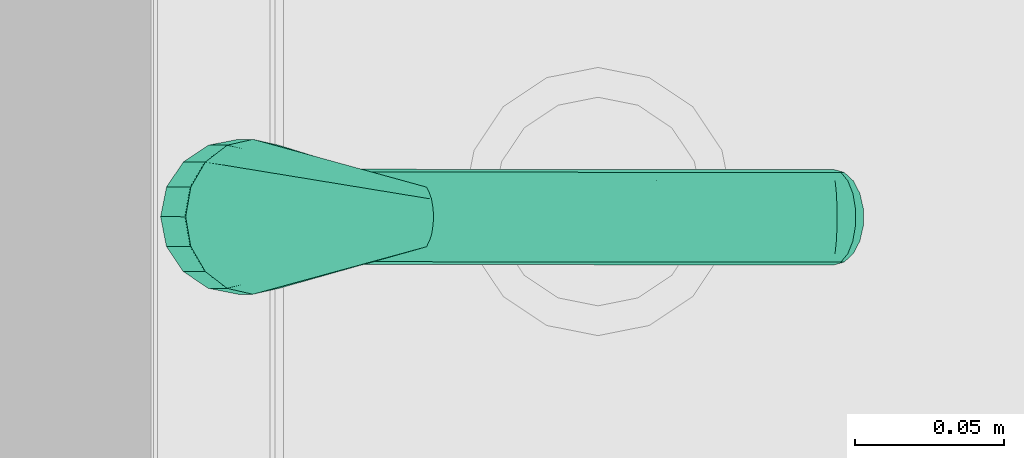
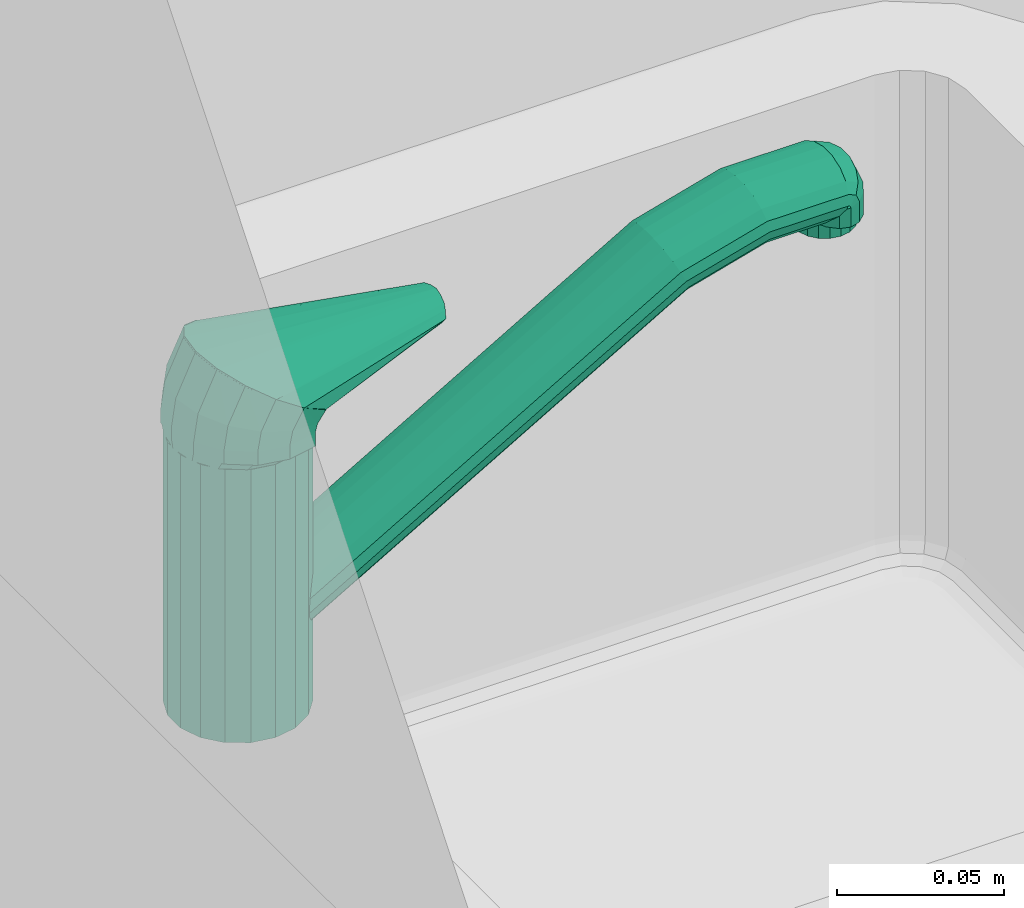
# One storey, part 77 of 127: 1 flow terminal.
"""IFC2X3 building model written with IfcOpenShell, lengths in millimetres."""

from ifc_helpers import new_model, entity, si_unit, converted_unit, derived_unit, money_unit, direction, frame, origin_with_axes, place, context, subcontext, project, spatial, open_shell, faceted_brep, surface_model, source, transform, mapped, type_object, element, save


model = new_model("IFC2X3")

# Units and contexts
model_context = context("Model", 3, precision=1e-05, world=origin_with_axes(), true_north=direction((0.0, 1.0)))
body_context = subcontext(model_context, "Body", "Model", "MODEL_VIEW")
ifc_project = project(units=[si_unit("LENGTHUNIT", "METRE", prefix="MILLI"), si_unit("AREAUNIT", "SQUARE_METRE"), si_unit("VOLUMEUNIT", "CUBIC_METRE"), converted_unit("PLANEANGLEUNIT", "DEGREE", entity("IfcPlaneAngleMeasure", 0.0174532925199), si_unit("PLANEANGLEUNIT", "RADIAN"), dimensions=[0, 0, 0, 0, 0, 0, 0]), si_unit("SOLIDANGLEUNIT", "STERADIAN"), money_unit("EUR"), converted_unit("TIMEUNIT", "Year", entity("IfcTimeMeasure", 31556926.0), si_unit("TIMEUNIT", "SECOND"), dimensions=[0, 0, 1, 0, 0, 0, 0]), si_unit("MASSUNIT", "GRAM", prefix="KILO"), si_unit("THERMODYNAMICTEMPERATUREUNIT", "DEGREE_CELSIUS"), si_unit("LUMINOUSINTENSITYUNIT", "LUMEN"), si_unit("ENERGYUNIT", "JOULE", prefix="MEGA"), derived_unit("THERMALCONDUCTANCEUNIT", [(si_unit("POWERUNIT", "WATT"), 1), (si_unit("LENGTHUNIT", "METRE"), -1), (si_unit("THERMODYNAMICTEMPERATUREUNIT", "KELVIN"), -1)]), derived_unit("SPECIFICHEATCAPACITYUNIT", [(si_unit("ENERGYUNIT", "JOULE"), 1), (si_unit("MASSUNIT", "GRAM", prefix="KILO"), -1), (si_unit("THERMODYNAMICTEMPERATUREUNIT", "KELVIN"), -1)]), derived_unit("MASSDENSITYUNIT", [(si_unit("MASSUNIT", "GRAM", prefix="KILO"), 1), (si_unit("VOLUMEUNIT", "CUBIC_METRE"), -1)])], contexts=[model_context])

# Site, building, storey
site_placement = place(None, origin_with_axes())
site = spatial("IfcSite", under=ifc_project, at=site_placement, Name="Site", CompositionType="ELEMENT")
building_placement = place(site_placement, origin_with_axes())
building = spatial("IfcBuilding", under=site, at=building_placement, Name="Building", CompositionType="ELEMENT")
storey_placement = place(building_placement, origin_with_axes())
storey = spatial("IfcBuildingStorey", under=building, at=storey_placement, Name="1 KORRUS", CompositionType="ELEMENT", Elevation=0.0)

# Flow terminal
sanitary_terminal_type = type_object("IfcSanitaryTerminalType", Name="Tap 22", PredefinedType="NOTDEFINED")
shared_shape = source(origin_with_axes(), body_context, "Body", "SurfaceModel", [
    faceted_brep([(-21.1430839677, -7.69545322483, 1000.0), (-22.5, 0.0, 1000.0), (-21.1430839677, 7.69545322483, 1000.0), (-17.2359999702, 14.4627212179, 1000.0), (-11.25, 19.4855715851, 1000.0), (-3.90708399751, 22.1581744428, 1000.0), (3.90708399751, 22.1581744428, 1000.0), (11.25, 19.4855715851, 1000.0), (17.2359999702, 14.4627212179, 1000.0), (21.1430839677, 7.69545322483, 1000.0), (22.5, 0.0, 1000.0), (21.1430839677, -7.69545322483, 1000.0), (17.2359999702, -14.4627212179, 1000.0), (11.25, -19.4855715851, 1000.0), (3.90708399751, -22.1581744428, 1000.0), (-3.90708399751, -22.1581744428, 1000.0), (-11.25, -19.4855715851, 1000.0), (-17.2359999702, -14.4627212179, 1000.0), (-21.1430839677, -7.69545322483, 1010.0), (-22.5, 0.0, 1010.0), (-21.1430839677, 7.69545322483, 1010.0), (-17.2359999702, 14.4627212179, 1010.0), (-11.25, 19.4855715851, 1010.0), (-3.90708399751, 22.1581744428, 1010.0), (3.90708399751, 22.1581744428, 1010.0), (11.25, 19.4855715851, 1010.0), (17.2359999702, 14.4627212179, 1010.0), (21.1430839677, 7.69545322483, 1010.0), (22.5, 0.0, 1010.0), (21.1430839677, -7.69545322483, 1010.0), (17.2359999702, -14.4627212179, 1010.0), (11.25, -19.4855715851, 1010.0), (3.90708399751, -22.1581744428, 1010.0), (-3.90708399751, -22.1581744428, 1010.0), (-11.25, -19.4855715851, 1010.0), (-17.2359999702, -14.4627212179, 1010.0)], [[[0, 1, 2, 3, 4, 5, 6, 7, 8, 9, 10, 11, 12, 13, 14, 15, 16, 17]], [[0, 18, 19, 1]], [[1, 19, 20, 2]], [[2, 20, 21, 3]], [[3, 21, 22, 4]], [[4, 22, 23, 5]], [[5, 23, 24, 6]], [[6, 24, 25, 7]], [[7, 25, 26, 8]], [[8, 26, 27, 9]], [[9, 27, 28, 10]], [[10, 28, 29, 11]], [[11, 29, 30, 12]], [[12, 30, 31, 13]], [[13, 31, 32, 14]], [[14, 32, 33, 15]], [[15, 33, 34, 16]], [[16, 34, 35, 17]], [[17, 35, 18, 0]], [[18, 35, 34, 33, 32, 31, 30, 29, 28, 27, 26, 25, 24, 23, 22, 21, 20, 19]]]),
    faceted_brep([(-21.1430839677, -7.69545322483, 1010.0), (-22.5, 0.0, 1010.0), (-21.1430839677, 7.69545322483, 1010.0), (-17.2359999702, 14.4627212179, 1010.0), (-11.25, 19.4855715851, 1010.0), (-3.90708399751, 22.1581744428, 1010.0), (3.90708399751, 22.1581744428, 1010.0), (11.25, 19.4855715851, 1010.0), (17.2359999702, 14.4627212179, 1010.0), (21.1430839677, 7.69545322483, 1010.0), (22.5, 0.0, 1010.0), (21.1430839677, -7.69545322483, 1010.0), (17.2359999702, -14.4627212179, 1010.0), (11.25, -19.4855715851, 1010.0), (3.90708399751, -22.1581744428, 1010.0), (-3.90708399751, -22.1581744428, 1010.0), (-11.25, -19.4855715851, 1010.0), (-17.2359999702, -14.4627212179, 1010.0), (-21.1430839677, -7.69545322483, 1055.0), (-22.5, 0.0, 1055.0), (-21.1430839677, 7.69545322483, 1055.0), (-17.2359999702, 14.4627212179, 1055.0), (-11.25, 19.4855715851, 1055.0), (-3.90708399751, 22.1581744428, 1055.0), (3.90708399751, 22.1581744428, 1055.0), (11.25, 19.4855715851, 1055.0), (17.2359999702, 14.4627212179, 1055.0), (21.1430839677, 7.69545322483, 1055.0), (22.5, 0.0, 1055.0), (21.1430839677, -7.69545322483, 1055.0), (17.2359999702, -14.4627212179, 1055.0), (11.25, -19.4855715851, 1055.0), (3.90708399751, -22.1581744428, 1055.0), (-3.90708399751, -22.1581744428, 1055.0), (-11.25, -19.4855715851, 1055.0), (-17.2359999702, -14.4627212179, 1055.0)], [[[0, 1, 2, 3, 4, 5, 6, 7, 8, 9, 10, 11, 12, 13, 14, 15, 16, 17]], [[0, 18, 19, 1]], [[1, 19, 20, 2]], [[2, 20, 21, 3]], [[3, 21, 22, 4]], [[4, 22, 23, 5]], [[5, 23, 24, 6]], [[6, 24, 25, 7]], [[7, 25, 26, 8]], [[8, 26, 27, 9]], [[9, 27, 28, 10]], [[10, 28, 29, 11]], [[11, 29, 30, 12]], [[12, 30, 31, 13]], [[13, 31, 32, 14]], [[14, 32, 33, 15]], [[15, 33, 34, 16]], [[16, 34, 35, 17]], [[17, 35, 18, 0]], [[18, 35, 34, 33, 32, 31, 30, 29, 28, 27, 26, 25, 24, 23, 22, 21, 20, 19]]]),
    faceted_brep([(-21.1430839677, -7.69545322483, 1055.0), (-22.5, 0.0, 1055.0), (-21.1430839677, 7.69545322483, 1055.0), (-17.2359999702, 14.4627212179, 1055.0), (-11.25, 19.4855715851, 1055.0), (-3.90708399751, 22.1581744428, 1055.0), (3.90708399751, 22.1581744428, 1055.0), (11.25, 19.4855715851, 1055.0), (17.2359999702, 14.4627212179, 1055.0), (21.1430839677, 7.69545322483, 1055.0), (22.5, 0.0, 1055.0), (21.1430839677, -7.69545322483, 1055.0), (17.2359999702, -14.4627212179, 1055.0), (11.25, -19.4855715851, 1055.0), (3.90708399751, -22.1581744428, 1055.0), (-3.90708399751, -22.1581744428, 1055.0), (-11.25, -19.4855715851, 1055.0), (-17.2359999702, -14.4627212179, 1055.0), (-21.1430839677, -7.69545322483, 1100.0), (-22.5, 0.0, 1100.0), (-21.1430839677, 7.69545322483, 1100.0), (-17.2359999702, 14.4627212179, 1100.0), (-11.25, 19.4855715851, 1100.0), (-3.90708399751, 22.1581744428, 1100.0), (3.90708399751, 22.1581744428, 1100.0), (11.25, 19.4855715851, 1100.0), (17.2359999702, 14.4627212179, 1100.0), (21.1430839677, 7.69545322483, 1100.0), (22.5, 0.0, 1100.0), (21.1430839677, -7.69545322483, 1100.0), (17.2359999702, -14.4627212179, 1100.0), (11.25, -19.4855715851, 1100.0), (3.90708399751, -22.1581744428, 1100.0), (-3.90708399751, -22.1581744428, 1100.0), (-11.25, -19.4855715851, 1100.0), (-17.2359999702, -14.4627212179, 1100.0)], [[[0, 1, 2, 3, 4, 5, 6, 7, 8, 9, 10, 11, 12, 13, 14, 15, 16, 17]], [[0, 18, 19, 1]], [[1, 19, 20, 2]], [[2, 20, 21, 3]], [[3, 21, 22, 4]], [[4, 22, 23, 5]], [[5, 23, 24, 6]], [[6, 24, 25, 7]], [[7, 25, 26, 8]], [[8, 26, 27, 9]], [[9, 27, 28, 10]], [[10, 28, 29, 11]], [[11, 29, 30, 12]], [[12, 30, 31, 13]], [[13, 31, 32, 14]], [[14, 32, 33, 15]], [[15, 33, 34, 16]], [[16, 34, 35, 17]], [[17, 35, 18, 0]], [[18, 35, 34, 33, 32, 31, 30, 29, 28, 27, 26, 25, 24, 23, 22, 21, 20, 19]]]),
    surface_model("IfcShellBasedSurfaceModel", [(-20.7872894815, -8.61037722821, 1100.0), (-24.0208678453, -12.9497692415, 1104.5), (-26.0, -3.0, 1104.5), (-22.5, 0.0, 1100.0), (-15.9099025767, -15.9099025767, 1100.0), (-24.0208678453, -12.9497692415, 1104.5), (-24.0208678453, 6.94976924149, 1104.5), (-20.7872894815, 8.61037722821, 1100.0), (-8.61037722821, -20.7872894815, 1100.0), (-18.3847763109, 15.3847763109, 1104.5), (-15.9099025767, 15.9099025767, 1100.0), (0.0, -25.1, 1104.5), (-9.94976924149, 21.0208678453, 1104.5), (-8.61037722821, 20.7872894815, 1100.0), (0.0, -22.5, 1100.0), (0.0, 23.0, 1104.5), (0.0, 22.5, 1100.0), (8.61037722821, -20.7872894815, 1100.0), (9.94976924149, 21.0208678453, 1104.5), (8.61037722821, 20.7872894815, 1100.0), (15.9099025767, -15.9099025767, 1100.0), (18.3847763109, 15.3847763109, 1104.5), (15.9099025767, 15.9099025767, 1100.0), (24.0208678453, -12.9497692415, 1104.5), (24.0208678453, 6.94976924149, 1104.5), (20.7872894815, 8.61037722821, 1100.0), (20.7872894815, -8.61037722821, 1100.0), (26.0, -3.0, 1104.5), (22.5, 0.0, 1100.0)], [open_shell([[[0, 1, 2, 3]], [[4, 5, 1, 0]], [[3, 2, 6, 7]], [[8, 5, 4]], [[7, 6, 9, 10]], [[8, 11, 5]], [[10, 9, 12, 13]], [[14, 11, 8]], [[13, 12, 15, 16]], [[17, 11, 14]], [[16, 15, 18, 19]], [[20, 11, 17]], [[19, 18, 21, 22]], [[20, 23, 11]], [[22, 21, 24, 25]], [[26, 23, 20]], [[25, 24, 27, 28]], [[28, 27, 23, 26]]])]),
    surface_model("IfcShellBasedSurfaceModel", [(-24.0208678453, -12.9497692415, 1103.0), (-24.0208678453, -12.9497692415, 1108.0), (-26.0, -3.0, 1108.0), (-24.0208678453, -12.9497692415, 1103.0), (-26.0, -4.0, 1113.0), (-26.0, -3.0, 1103.0), (-24.0208678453, -12.9497692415, 1108.0), (-24.0208678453, 5.75655144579, 1114.95131029), (-24.0208678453, -13.7565514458, 1111.04868971), (-24.0208678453, 6.94976924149, 1108.0), (0.0, -25.1, 1103.0), (-24.0208678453, 0.638818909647, 1124.93646795), (-26.0, -8.0, 1120.0), (-24.0208678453, 6.94976924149, 1103.0), (0.0, -25.1, 1108.0), (-24.0208678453, -13.7565514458, 1111.04868971), (-18.3847763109, 7.96245595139, 1129.1214034), (-18.3847763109, 14.0277563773, 1116.60555128), (-24.0208678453, -16.6388189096, 1115.06353205), (-18.3847763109, 15.3847763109, 1108.0), (24.0208678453, -12.9497692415, 1103.0), (-18.3847763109, 15.3847763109, 1103.0), (24.0208678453, -12.9497692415, 1108.0), (0.0, -25.6708329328, 1108.66583341), (-24.0208678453, -16.6388189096, 1115.06353205), (-9.94976924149, 12.8559537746, 1131.91768787), (-9.94976924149, 19.5543988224, 1117.71087976), (-9.94976924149, 21.0208678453, 1108.0), (26.0, -3.0, 1103.0), (-9.94976924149, 21.0208678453, 1103.0), (26.0, -3.0, 1108.0), (24.0208678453, -13.7565514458, 1111.04868971), (0.0, -27.188173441, 1109.03532946), (0.0, 14.5743216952, 1132.8996124), (0.0, 21.495097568, 1118.09901951), (0.0, 23.0, 1108.0), (24.0208678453, 6.94976924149, 1103.0), (0.0, 23.0, 1103.0), (24.0208678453, 6.94976924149, 1108.0), (26.0, -4.0, 1113.0), (24.0208678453, -16.6388189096, 1115.06353205), (9.94976924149, 12.8559537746, 1131.91768787), (9.94976924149, 19.5543988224, 1117.71087976), (9.94976924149, 21.0208678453, 1108.0), (18.3847763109, 15.3847763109, 1103.0), (9.94976924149, 21.0208678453, 1103.0), (18.3847763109, 15.3847763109, 1108.0), (24.0208678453, 5.75655144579, 1114.95131029), (26.0, -8.0, 1120.0), (18.3847763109, 7.96245595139, 1129.1214034), (18.3847763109, 14.0277563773, 1116.60555128), (24.0208678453, 0.638818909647, 1124.93646795)], [open_shell([[[0, 1, 2]], [[1, 0, 3]], [[4, 2, 1]], [[2, 5, 0]], [[3, 6, 1]], [[2, 4, 7]], [[1, 8, 4]], [[5, 2, 9]], [[6, 3, 10]], [[8, 1, 6]], [[11, 7, 4]], [[7, 9, 2]], [[12, 4, 8]], [[9, 13, 5]], [[10, 14, 6]], [[6, 15, 8]], [[7, 11, 16]], [[4, 12, 11]], [[9, 7, 17]], [[8, 18, 12]], [[13, 9, 19]], [[14, 10, 20]], [[15, 6, 14]], [[18, 8, 15]], [[16, 17, 7]], [[17, 19, 9]], [[19, 21, 13]], [[20, 22, 14]], [[14, 23, 15]], [[15, 24, 18]], [[17, 16, 25]], [[19, 17, 26]], [[21, 19, 27]], [[22, 20, 28]], [[23, 14, 22]], [[24, 15, 23]], [[25, 26, 17]], [[26, 27, 19]], [[27, 29, 21]], [[28, 30, 22]], [[22, 31, 23]], [[23, 32, 24]], [[26, 25, 33]], [[27, 26, 34]], [[29, 27, 35]], [[30, 28, 36]], [[31, 22, 30]], [[32, 23, 31]], [[33, 34, 26]], [[34, 35, 27]], [[35, 37, 29]], [[36, 38, 30]], [[30, 39, 31]], [[31, 40, 32]], [[34, 33, 41]], [[35, 34, 42]], [[37, 35, 43]], [[38, 36, 44]], [[39, 30, 38]], [[40, 31, 39]], [[41, 42, 34]], [[42, 43, 35]], [[43, 45, 37]], [[44, 46, 38]], [[38, 47, 39]], [[39, 48, 40]], [[42, 41, 49]], [[43, 42, 50]], [[45, 43, 46]], [[46, 44, 45]], [[47, 38, 46]], [[48, 39, 47]], [[49, 50, 42]], [[50, 46, 43]], [[46, 50, 47]], [[47, 51, 48]], [[50, 49, 51]], [[51, 47, 50]]])]),
    surface_model("IfcShellBasedSurfaceModel", [(-24.0208678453, -16.7440274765, 1115.25238044), (-10.0, -66.2556184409, 1122.50657537), (-26.0, -8.0, 1120.0), (-9.0, -65.3013009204, 1120.74894114), (-8.0, -67.2099359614, 1124.26420959), (0.0, -27.4218581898, 1109.4547914), (0.0, -63.8698246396, 1118.1124898), (9.0, -65.3013009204, 1120.74894114), (10.0, -66.2556184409, 1122.50657537), (8.0, -67.2099359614, 1124.26420959), (6.0, -67.9256741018, 1125.58243526), (3.0, -68.4028328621, 1126.46125237), (0.0, -68.6414122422, 1126.90066093), (-3.0, -68.4028328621, 1126.46125237), (-6.0, -67.9256741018, 1125.58243526), (-24.0208678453, 0.744027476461, 1124.74761956), (24.0208678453, -16.7440274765, 1115.25238044), (26.0, -8.0, 1120.0), (24.0208678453, 0.744027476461, 1124.74761956), (18.3847763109, 8.15685603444, 1128.77245707), (9.94976924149, 13.1099497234, 1131.46176752), (0.0, 14.8492449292, 1132.40612777), (-9.94976924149, 13.1099497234, 1131.46176752), (-18.3847763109, 8.15685603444, 1128.77245707)], [open_shell([[[0, 1, 2]], [[0, 3, 1]], [[2, 1, 4]], [[5, 3, 0]], [[3, 6, 7, 8, 9, 10, 11, 12, 13, 14, 4, 1]], [[2, 4, 15]], [[5, 6, 3]], [[16, 7, 6]], [[17, 8, 7]], [[18, 9, 8]], [[19, 10, 9]], [[20, 11, 10]], [[21, 12, 11]], [[22, 13, 12]], [[23, 14, 13]], [[15, 4, 14]], [[16, 6, 5]], [[17, 7, 16]], [[18, 8, 17]], [[19, 9, 18]], [[20, 10, 19]], [[21, 11, 20]], [[22, 12, 21]], [[23, 13, 22]], [[15, 14, 23]]])]),
    surface_model("IfcShellBasedSurfaceModel", [(-16.0, -15.0, 1035.8), (-16.0, -146.0, 1112.0), (-15.0350819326, -144.663324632, 1115.17921593), (-15.0350819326, -13.350271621, 1038.79711945), (-15.0350819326, -16.649728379, 1032.80288055), (-15.0350819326, -147.336675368, 1108.82078407), (-16.0, -175.0, 1120.0), (-15.0350819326, -174.536897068, 1123.42020143), (-12.2567110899, -143.487872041, 1117.97497151), (-12.2567110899, -11.8995248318, 1041.43274206), (-12.2567110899, -18.1004751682, 1030.16725794), (-12.2567110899, -148.512127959, 1106.02502849), (-15.0350819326, -175.463102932, 1116.57979857), (-16.0, -202.0, 1120.0), (-15.0350819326, -202.702022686, 1123.42020143), (-12.2567110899, -174.129651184, 1126.4278761), (-8.0, -142.615419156, 1120.05005733), (-8.0, -10.8227411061, 1043.38897285), (-8.0, -19.1772588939, 1028.21102715), (-8.0, -149.384580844, 1103.94994267), (-12.2567110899, -175.870348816, 1113.5721239), (-15.0350819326, -201.297977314, 1116.57979857), (-16.0, -202.7, 1119.7), (-15.0350819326, -205.304747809, 1122.30474781), (-12.2567110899, -203.319371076, 1126.4278761), (-8.0, -173.827382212, 1128.66025404), (-2.77837084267, -142.151196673, 1121.15418744), (-2.77837084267, -10.2497964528, 1044.42986151), (-2.77837084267, -19.7502035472, 1027.17013849), (-2.77837084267, -149.848803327, 1102.84581256), (-8.0, -176.172617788, 1111.33974596), (-12.2567110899, -200.680628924, 1113.5721239), (-15.0350819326, -200.095252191, 1117.09525219), (-16.0, -203.0, 1119.0), (-15.0350819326, -206.420201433, 1119.70202269), (-12.2567110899, -207.595324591, 1124.59532459), (-8.0, -203.777583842, 1128.66025404), (-2.77837084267, -173.666548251, 1129.84807753), (2.77837084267, -142.151196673, 1121.15418744), (2.77837084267, -10.2497964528, 1044.42986151), (2.77837084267, -19.7502035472, 1027.17013849), (2.77837084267, -149.848803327, 1102.84581256), (-2.77837084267, -176.333451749, 1110.15192247), (-8.0, -200.222416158, 1111.33974596), (-12.2567110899, -197.804675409, 1114.80467541), (-15.0350819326, -199.579798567, 1118.29797731), (-16.0, -203.0, 1112.0), (-15.0350819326, -206.420201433, 1112.0), (-12.2567110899, -209.427876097, 1120.31937108), (-8.0, -209.295452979, 1126.29545298), (-2.77837084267, -204.021393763, 1129.84807753), (2.77837084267, -173.666548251, 1129.84807753), (8.0, -142.615419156, 1120.05005733), (8.0, -10.8227411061, 1043.38897285), (8.0, -19.1772588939, 1028.21102715), (8.0, -149.384580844, 1103.94994267), (2.77837084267, -176.333451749, 1110.15192247), (-2.77837084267, -199.978606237, 1110.15192247), (-8.0, -196.104547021, 1113.10454702), (-12.2567110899, -196.572123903, 1117.68062892), (-15.0350819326, -199.579798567, 1112.0), (-12.2567110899, -196.572123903, 1112.0), (-8.0, -194.339745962, 1112.0), (-2.77837084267, -193.15192247, 1112.0), (2.77837084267, -193.15192247, 1112.0), (8.0, -194.339745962, 1112.0), (12.2567110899, -196.572123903, 1112.0), (15.0350819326, -199.579798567, 1112.0), (16.0, -203.0, 1112.0), (15.0350819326, -206.420201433, 1112.0), (12.2567110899, -209.427876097, 1112.0), (8.0, -211.660254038, 1112.0), (2.77837084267, -212.84807753, 1112.0), (-2.77837084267, -212.84807753, 1112.0), (-8.0, -211.660254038, 1112.0), (-12.2567110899, -209.427876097, 1112.0), (-8.0, -211.660254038, 1120.77758384), (-2.77837084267, -210.2000724, 1127.2000724), (2.77837084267, -204.021393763, 1129.84807753), (8.0, -173.827382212, 1128.66025404), (12.2567110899, -143.487872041, 1117.97497151), (12.2567110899, -11.8995248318, 1041.43274206), (12.2567110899, -18.1004751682, 1030.16725794), (12.2567110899, -148.512127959, 1106.02502849), (8.0, -176.172617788, 1111.33974596), (2.77837084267, -199.978606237, 1110.15192247), (-2.77837084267, -195.1999276, 1112.1999276), (-8.0, -194.339745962, 1117.22241616), (-2.77837084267, -193.15192247, 1116.97860624), (2.77837084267, -193.15192247, 1116.97860624), (8.0, -194.339745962, 1117.22241616), (12.2567110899, -196.572123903, 1117.68062892), (15.0350819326, -199.579798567, 1118.29797731), (16.0, -203.0, 1119.0), (15.0350819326, -206.420201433, 1119.70202269), (12.2567110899, -209.427876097, 1120.31937108), (8.0, -211.660254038, 1120.77758384), (2.77837084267, -212.84807753, 1121.02139376), (-2.77837084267, -212.84807753, 1121.02139376), (2.77837084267, -210.2000724, 1127.2000724), (8.0, -203.777583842, 1128.66025404), (12.2567110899, -174.129651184, 1126.4278761), (15.0350819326, -144.663324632, 1115.17921593), (15.0350819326, -13.350271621, 1038.79711945), (15.0350819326, -16.649728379, 1032.80288055), (15.0350819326, -147.336675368, 1108.82078407), (12.2567110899, -175.870348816, 1113.5721239), (8.0, -200.222416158, 1111.33974596), (2.77837084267, -195.1999276, 1112.1999276), (8.0, -196.104547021, 1113.10454702), (12.2567110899, -197.804675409, 1114.80467541), (15.0350819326, -200.095252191, 1117.09525219), (16.0, -202.7, 1119.7), (15.0350819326, -205.304747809, 1122.30474781), (12.2567110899, -207.595324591, 1124.59532459), (8.0, -209.295452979, 1126.29545298), (12.2567110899, -203.319371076, 1126.4278761), (15.0350819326, -174.536897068, 1123.42020143), (16.0, -146.0, 1112.0), (16.0, -15.0, 1035.8), (15.0350819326, -175.463102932, 1116.57979857), (12.2567110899, -200.680628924, 1113.5721239), (15.0350819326, -201.297977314, 1116.57979857), (16.0, -202.0, 1120.0), (15.0350819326, -202.702022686, 1123.42020143), (16.0, -175.0, 1120.0)], [open_shell([[[0, 1, 2, 3]], [[4, 5, 1, 0]], [[1, 6, 7, 2]], [[3, 2, 8, 9]], [[10, 11, 5, 4]], [[5, 12, 6, 1]], [[6, 13, 14, 7]], [[2, 7, 15, 8]], [[9, 8, 16, 17]], [[18, 19, 11, 10]], [[11, 20, 12, 5]], [[12, 21, 13, 6]], [[13, 22, 23, 14]], [[7, 14, 24, 15]], [[8, 15, 25, 16]], [[17, 16, 26, 27]], [[28, 29, 19, 18]], [[19, 30, 20, 11]], [[20, 31, 21, 12]], [[21, 32, 22, 13]], [[22, 33, 34, 23]], [[14, 23, 35, 24]], [[15, 24, 36, 25]], [[16, 25, 37, 26]], [[27, 26, 38, 39]], [[40, 41, 29, 28]], [[29, 42, 30, 19]], [[30, 43, 31, 20]], [[31, 44, 32, 21]], [[32, 45, 33, 22]], [[33, 46, 47, 34]], [[23, 34, 48, 35]], [[24, 35, 49, 36]], [[25, 36, 50, 37]], [[26, 37, 51, 38]], [[39, 38, 52, 53]], [[54, 55, 41, 40]], [[41, 56, 42, 29]], [[42, 57, 43, 30]], [[43, 58, 44, 31]], [[44, 59, 45, 32]], [[45, 60, 46, 33]], [[46, 60, 61, 62, 63, 64, 65, 66, 67, 68, 69, 70, 71, 72, 73, 74, 75, 47]], [[34, 47, 75, 48]], [[35, 48, 76, 49]], [[36, 49, 77, 50]], [[37, 50, 78, 51]], [[38, 51, 79, 52]], [[53, 52, 80, 81]], [[82, 83, 55, 54]], [[55, 84, 56, 41]], [[56, 85, 57, 42]], [[57, 86, 58, 43]], [[58, 87, 59, 44]], [[59, 61, 60, 45]], [[87, 62, 61, 59]], [[88, 63, 62, 87]], [[89, 64, 63, 88]], [[90, 65, 64, 89]], [[91, 66, 65, 90]], [[92, 67, 66, 91]], [[93, 68, 67, 92]], [[94, 69, 68, 93]], [[95, 70, 69, 94]], [[96, 71, 70, 95]], [[97, 72, 71, 96]], [[98, 73, 72, 97]], [[76, 74, 73, 98]], [[48, 75, 74, 76]], [[49, 76, 98, 77]], [[50, 77, 99, 78]], [[51, 78, 100, 79]], [[52, 79, 101, 80]], [[81, 80, 102, 103]], [[104, 105, 83, 82]], [[83, 106, 84, 55]], [[84, 107, 85, 56]], [[85, 108, 86, 57]], [[86, 88, 87, 58]], [[108, 89, 88, 86]], [[109, 90, 89, 108]], [[110, 91, 90, 109]], [[111, 92, 91, 110]], [[112, 93, 92, 111]], [[113, 94, 93, 112]], [[114, 95, 94, 113]], [[115, 96, 95, 114]], [[99, 97, 96, 115]], [[77, 98, 97, 99]], [[78, 99, 115, 100]], [[79, 100, 116, 101]], [[80, 101, 117, 102]], [[103, 102, 118, 119]], [[119, 118, 105, 104]], [[105, 120, 106, 83]], [[106, 121, 107, 84]], [[107, 109, 108, 85]], [[121, 110, 109, 107]], [[122, 111, 110, 121]], [[123, 112, 111, 122]], [[124, 113, 112, 123]], [[116, 114, 113, 124]], [[100, 115, 114, 116]], [[101, 116, 124, 117]], [[102, 117, 125, 118]], [[118, 125, 120, 105]], [[120, 122, 121, 106]], [[125, 123, 122, 120]], [[117, 124, 123, 125]]])]),
    faceted_brep([(-9.39692620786, -199.579798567, 1112.0), (-10.0, -203.0, 1112.0), (-9.39692620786, -206.420201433, 1112.0), (-7.66044443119, -209.427876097, 1112.0), (-5.0, -211.660254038, 1112.0), (-1.73648177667, -212.84807753, 1112.0), (1.73648177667, -212.84807753, 1112.0), (5.0, -211.660254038, 1112.0), (7.66044443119, -209.427876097, 1112.0), (9.39692620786, -206.420201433, 1112.0), (10.0, -203.0, 1112.0), (9.39692620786, -199.579798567, 1112.0), (7.66044443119, -196.572123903, 1112.0), (5.0, -194.339745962, 1112.0), (1.73648177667, -193.15192247, 1112.0), (-1.73648177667, -193.15192247, 1112.0), (-5.0, -194.339745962, 1112.0), (-7.66044443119, -196.572123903, 1112.0), (-9.39692620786, -199.579798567, 1105.0), (-10.0, -203.0, 1105.0), (-9.39692620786, -206.420201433, 1105.0), (-7.66044443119, -209.427876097, 1105.0), (-5.0, -211.660254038, 1105.0), (-1.73648177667, -212.84807753, 1105.0), (1.73648177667, -212.84807753, 1105.0), (5.0, -211.660254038, 1105.0), (7.66044443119, -209.427876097, 1105.0), (9.39692620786, -206.420201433, 1105.0), (10.0, -203.0, 1105.0), (9.39692620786, -199.579798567, 1105.0), (7.66044443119, -196.572123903, 1105.0), (5.0, -194.339745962, 1105.0), (1.73648177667, -193.15192247, 1105.0), (-1.73648177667, -193.15192247, 1105.0), (-5.0, -194.339745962, 1105.0), (-7.66044443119, -196.572123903, 1105.0)], [[[0, 1, 2, 3, 4, 5, 6, 7, 8, 9, 10, 11, 12, 13, 14, 15, 16, 17]], [[0, 18, 19, 1]], [[1, 19, 20, 2]], [[2, 20, 21, 3]], [[3, 21, 22, 4]], [[4, 22, 23, 5]], [[5, 23, 24, 6]], [[6, 24, 25, 7]], [[7, 25, 26, 8]], [[8, 26, 27, 9]], [[9, 27, 28, 10]], [[10, 28, 29, 11]], [[11, 29, 30, 12]], [[12, 30, 31, 13]], [[13, 31, 32, 14]], [[14, 32, 33, 15]], [[15, 33, 34, 16]], [[16, 34, 35, 17]], [[17, 35, 18, 0]], [[18, 35, 34, 33, 32, 31, 30, 29, 28, 27, 26, 25, 24, 23, 22, 21, 20, 19]]]),
])
flow_terminal_placement = place(storey_placement, frame((31180.0135542, 39944.8351764, 43.2580805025), z_axis=(0.0, 0.0, 1.0), x_axis=(0.000769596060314, 0.999999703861, 0.0)))
element("IfcFlowTerminal", 1, at=flow_terminal_placement, inside=storey, type_object=sanitary_terminal_type, Name="Valamu", context=body_context, shape_type="MappedRepresentation", body=[
    mapped(shared_shape, transform((0.0, 0.0, 0.0))),
])

save(model, "model.ifc")
